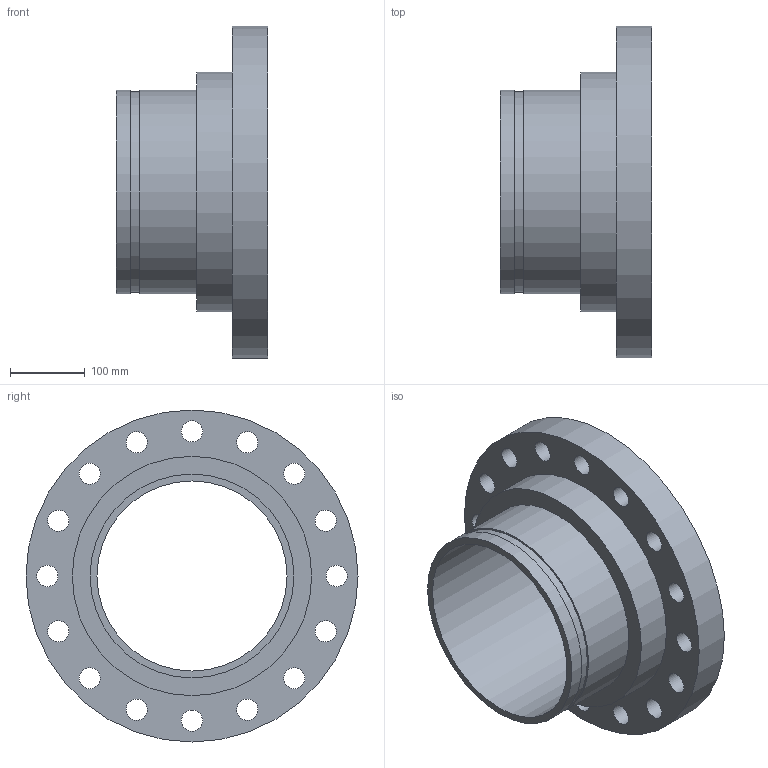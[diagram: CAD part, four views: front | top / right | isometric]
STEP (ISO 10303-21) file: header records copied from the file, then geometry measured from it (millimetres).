
FILE_DESCRIPTION(/* description */ ('VIC FLANGE ADAPTER No 46F','CAx-IF Rec.Pracs.---Representation and Presentation of Product Manufacturing Information (PMI)---4.0---2014-10-13'),/* implementation_level */ '2;1');
FILE_NAME(/* name */ 'C:\Users\kkamble\AppData\Roaming\Autodesk\ApplicationPlugins\Back Up\Victaulic_IPS_Flanged Adapter Nipple_CL 300 FF_No 46F (OGSxFLG)\Victaulic_IPS_Flanged Adapter Nipple_CL 300 FF_No 46F (OGSxFLG)_10 (250).stp',/* time_stamp */ '2020-07-26T22:25:06+06:00',/* author */ ('CONSTRUCTION PIPING SERVICES'),/* organization */ ('Victaulic'),/* preprocessor_version */ 'ST-DEVELOPER v17.2',/* originating_system */ 'Autodesk Inventor 2019',/* authorisation */ '');
FILE_SCHEMA (('AP242_MANAGED_MODEL_BASED_3D_ENGINEERING_MIM_LF { 1 0 10303 442 1 1 4 }'));
Length unit declared in the file: inch
Products named in the file (1): 046F-10.0
Bounding box: 203.2 x 444.5 x 444.5 mm (x, y, z)
Volume: 6715452.4 mm3; surface area: 630010.5 mm2
Topology: 1 solids, 1 shells, 28 faces, 78 edges, 56 vertices
Faces by surface type: cylinder 22, plane 6
Full cylindrical faces by diameter (mm): 28.448 x16, 254.508 x1, 268.275 x1, 273.05 x2, 320.548 x1, 444.5 x1
Entity records: 1102 total; most frequent: DIRECTION 192, CARTESIAN_POINT 163, ORIENTED_EDGE 156, AXIS2_PLACEMENT_3D 85, EDGE_CURVE 78, EDGE_LOOP 66, CIRCLE 56, VERTEX_POINT 56
